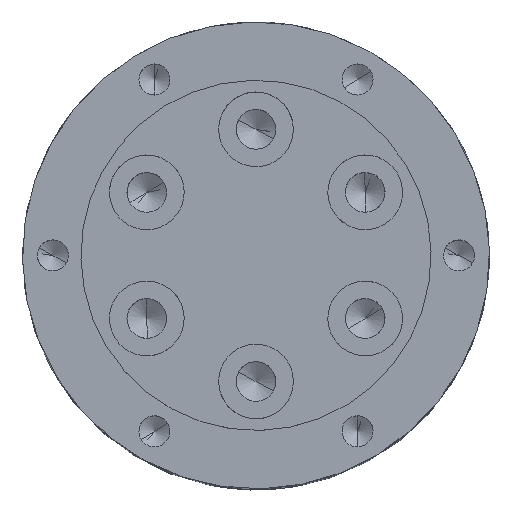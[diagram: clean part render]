
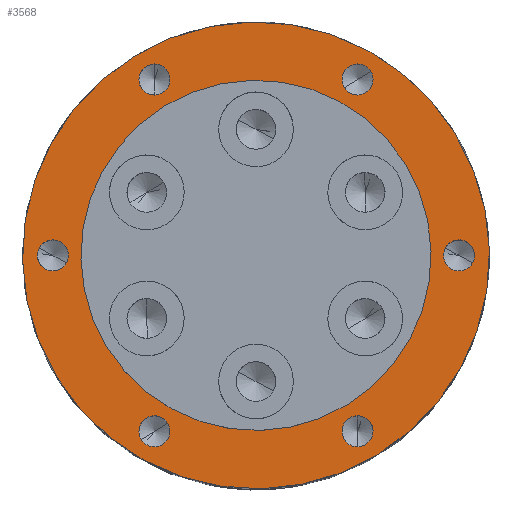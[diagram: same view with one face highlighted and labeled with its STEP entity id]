
A CAD part, top view. The second image highlights one B-rep face of the part: STEP entity #3568.
In plain terms, the highlighted planar face has unit normal (0, 0, 1).
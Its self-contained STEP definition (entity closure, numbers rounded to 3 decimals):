
#3423=AXIS2_PLACEMENT_3D('Circle Axis2P3D',#3421,#3422,$) ;
#3436=AXIS2_PLACEMENT_3D('Plane Axis2P3D',#3433,#3434,#3435) ;
#3440=AXIS2_PLACEMENT_3D('Circle Axis2P3D',#3438,#3439,$) ;
#3449=AXIS2_PLACEMENT_3D('Circle Axis2P3D',#3447,#3448,$) ;
#3462=AXIS2_PLACEMENT_3D('Circle Axis2P3D',#3460,#3461,$) ;
#3471=AXIS2_PLACEMENT_3D('Circle Axis2P3D',#3469,#3470,$) ;
#3480=AXIS2_PLACEMENT_3D('Circle Axis2P3D',#3478,#3479,$) ;
#3489=AXIS2_PLACEMENT_3D('Circle Axis2P3D',#3487,#3488,$) ;
#3498=AXIS2_PLACEMENT_3D('Circle Axis2P3D',#3496,#3497,$) ;
#3507=AXIS2_PLACEMENT_3D('Circle Axis2P3D',#3505,#3506,$) ;
#3516=AXIS2_PLACEMENT_3D('Circle Axis2P3D',#3514,#3515,$) ;
#3525=AXIS2_PLACEMENT_3D('Circle Axis2P3D',#3523,#3524,$) ;
#3534=AXIS2_PLACEMENT_3D('Circle Axis2P3D',#3532,#3533,$) ;
#3543=AXIS2_PLACEMENT_3D('Circle Axis2P3D',#3541,#3542,$) ;
#3552=AXIS2_PLACEMENT_3D('Circle Axis2P3D',#3550,#3551,$) ;
#3561=AXIS2_PLACEMENT_3D('Circle Axis2P3D',#3559,#3560,$) ;
#3379=CARTESIAN_POINT('Control Point',(-40.583,-1.593,121.)) ;
#3380=CARTESIAN_POINT('Control Point',(-40.834,-2.052,121.)) ;
#3381=CARTESIAN_POINT('Control Point',(-41.174,-2.461,121.)) ;
#3382=CARTESIAN_POINT('Control Point',(-41.591,-2.797,121.)) ;
#3383=CARTESIAN_POINT('Control Point',(-42.535,-3.287,121.)) ;
#3384=CARTESIAN_POINT('Control Point',(-43.595,-3.385,121.)) ;
#3385=CARTESIAN_POINT('Control Point',(-44.128,-3.327,121.)) ;
#3386=CARTESIAN_POINT('Control Point',(-45.143,-3.007,121.)) ;
#3387=CARTESIAN_POINT('Control Point',(-45.961,-2.326,121.)) ;
#3388=CARTESIAN_POINT('Control Point',(-46.297,-1.909,121.)) ;
#3389=CARTESIAN_POINT('Control Point',(-46.787,-0.965,121.)) ;
#3390=CARTESIAN_POINT('Control Point',(-46.885,0.095,121.)) ;
#3391=CARTESIAN_POINT('Control Point',(-46.827,0.628,121.)) ;
#3392=CARTESIAN_POINT('Control Point',(-46.667,1.135,121.)) ;
#3393=CARTESIAN_POINT('Control Point',(-46.417,1.593,121.)) ;
#3394=CARTESIAN_POINT('Vertex',(-40.583,-1.593,121.)) ;
#3396=CARTESIAN_POINT('Vertex',(-46.417,1.593,121.)) ;
#3421=CARTESIAN_POINT('Axis2P3D Location',(-43.5,0.,121.)) ;
#3433=CARTESIAN_POINT('Axis2P3D Location',(0.,37.5,121.)) ;
#3438=CARTESIAN_POINT('Axis2P3D Location',(0.,0.,121.)) ;
#3442=CARTESIAN_POINT('Vertex',(23.971,43.879,121.)) ;
#3444=CARTESIAN_POINT('Vertex',(-23.971,-43.879,121.)) ;
#3447=CARTESIAN_POINT('Axis2P3D Location',(0.,0.,121.)) ;
#3460=CARTESIAN_POINT('Axis2P3D Location',(0.,0.,121.)) ;
#3464=CARTESIAN_POINT('Vertex',(-17.978,-32.909,121.)) ;
#3466=CARTESIAN_POINT('Vertex',(17.978,32.909,121.)) ;
#3469=CARTESIAN_POINT('Axis2P3D Location',(0.,0.,121.)) ;
#3478=CARTESIAN_POINT('Axis2P3D Location',(-21.75,37.672,121.)) ;
#3482=CARTESIAN_POINT('Vertex',(-21.672,34.35,121.)) ;
#3484=CARTESIAN_POINT('Vertex',(-21.828,40.995,121.)) ;
#3487=CARTESIAN_POINT('Axis2P3D Location',(-21.75,37.672,121.)) ;
#3496=CARTESIAN_POINT('Axis2P3D Location',(21.75,37.672,121.)) ;
#3500=CARTESIAN_POINT('Vertex',(18.912,35.943,121.)) ;
#3502=CARTESIAN_POINT('Vertex',(24.588,39.401,121.)) ;
#3505=CARTESIAN_POINT('Axis2P3D Location',(21.75,37.672,121.)) ;
#3514=CARTESIAN_POINT('Axis2P3D Location',(43.5,0.,121.)) ;
#3518=CARTESIAN_POINT('Vertex',(40.583,1.593,121.)) ;
#3520=CARTESIAN_POINT('Vertex',(46.417,-1.593,121.)) ;
#3523=CARTESIAN_POINT('Axis2P3D Location',(43.5,0.,121.)) ;
#3532=CARTESIAN_POINT('Axis2P3D Location',(21.75,-37.672,121.)) ;
#3536=CARTESIAN_POINT('Vertex',(21.672,-34.35,121.)) ;
#3538=CARTESIAN_POINT('Vertex',(21.828,-40.995,121.)) ;
#3541=CARTESIAN_POINT('Axis2P3D Location',(21.75,-37.672,121.)) ;
#3550=CARTESIAN_POINT('Axis2P3D Location',(-21.75,-37.672,121.)) ;
#3554=CARTESIAN_POINT('Vertex',(-18.912,-35.943,121.)) ;
#3556=CARTESIAN_POINT('Vertex',(-24.588,-39.401,121.)) ;
#3559=CARTESIAN_POINT('Axis2P3D Location',(-21.75,-37.672,121.)) ;
#3422=DIRECTION('Axis2P3D Direction',(0.,0.,-1.)) ;
#3434=DIRECTION('Axis2P3D Direction',(0.,0.,-1.)) ;
#3435=DIRECTION('Axis2P3D XDirection',(1.,0.,0.)) ;
#3439=DIRECTION('Axis2P3D Direction',(0.,0.,-1.)) ;
#3448=DIRECTION('Axis2P3D Direction',(0.,0.,-1.)) ;
#3461=DIRECTION('Axis2P3D Direction',(0.,0.,-1.)) ;
#3470=DIRECTION('Axis2P3D Direction',(0.,0.,-1.)) ;
#3479=DIRECTION('Axis2P3D Direction',(0.,0.,-1.)) ;
#3488=DIRECTION('Axis2P3D Direction',(0.,0.,-1.)) ;
#3497=DIRECTION('Axis2P3D Direction',(0.,0.,-1.)) ;
#3506=DIRECTION('Axis2P3D Direction',(0.,0.,-1.)) ;
#3515=DIRECTION('Axis2P3D Direction',(0.,0.,-1.)) ;
#3524=DIRECTION('Axis2P3D Direction',(0.,0.,-1.)) ;
#3533=DIRECTION('Axis2P3D Direction',(0.,0.,-1.)) ;
#3542=DIRECTION('Axis2P3D Direction',(0.,0.,-1.)) ;
#3551=DIRECTION('Axis2P3D Direction',(0.,0.,-1.)) ;
#3560=DIRECTION('Axis2P3D Direction',(0.,0.,-1.)) ;
#3453=ORIENTED_EDGE('',*,*,#3446,.F.) ;
#3454=ORIENTED_EDGE('',*,*,#3451,.F.) ;
#3457=ORIENTED_EDGE('',*,*,#3425,.T.) ;
#3458=ORIENTED_EDGE('',*,*,#3398,.T.) ;
#3475=ORIENTED_EDGE('',*,*,#3468,.T.) ;
#3476=ORIENTED_EDGE('',*,*,#3473,.T.) ;
#3493=ORIENTED_EDGE('',*,*,#3486,.T.) ;
#3494=ORIENTED_EDGE('',*,*,#3491,.T.) ;
#3511=ORIENTED_EDGE('',*,*,#3504,.T.) ;
#3512=ORIENTED_EDGE('',*,*,#3509,.T.) ;
#3529=ORIENTED_EDGE('',*,*,#3522,.T.) ;
#3530=ORIENTED_EDGE('',*,*,#3527,.T.) ;
#3547=ORIENTED_EDGE('',*,*,#3540,.T.) ;
#3548=ORIENTED_EDGE('',*,*,#3545,.T.) ;
#3565=ORIENTED_EDGE('',*,*,#3558,.T.) ;
#3566=ORIENTED_EDGE('',*,*,#3563,.T.) ;
#3459=FACE_BOUND('',#3456,.T.) ;
#3477=FACE_BOUND('',#3474,.T.) ;
#3495=FACE_BOUND('',#3492,.T.) ;
#3513=FACE_BOUND('',#3510,.T.) ;
#3531=FACE_BOUND('',#3528,.T.) ;
#3549=FACE_BOUND('',#3546,.T.) ;
#3567=FACE_BOUND('',#3564,.T.) ;
#3568=ADVANCED_FACE('PartBody',(#3455,#3459,#3477,#3495,#3513,#3531,#3549,#3567),#3437,.F.) ;
#3378=B_SPLINE_CURVE_WITH_KNOTS('',5,(#3379,#3380,#3381,#3382,#3383,#3384,#3385,#3386,#3387,#3388,#3389,#3390,#3391,#3392,#3393),.UNSPECIFIED.,.F.,.U.,(6,3,3,3,6),(-5.221,-2.61,0.,2.61,5.221),.UNSPECIFIED.) ;
#3424=CIRCLE('generated circle',#3423,3.324) ;
#3441=CIRCLE('generated circle',#3440,50.) ;
#3450=CIRCLE('generated circle',#3449,50.) ;
#3463=CIRCLE('generated circle',#3462,37.5) ;
#3472=CIRCLE('generated circle',#3471,37.5) ;
#3481=CIRCLE('generated circle',#3480,3.323) ;
#3490=CIRCLE('generated circle',#3489,3.323) ;
#3499=CIRCLE('generated circle',#3498,3.324) ;
#3508=CIRCLE('generated circle',#3507,3.324) ;
#3517=CIRCLE('generated circle',#3516,3.324) ;
#3526=CIRCLE('generated circle',#3525,3.324) ;
#3535=CIRCLE('generated circle',#3534,3.323) ;
#3544=CIRCLE('generated circle',#3543,3.323) ;
#3553=CIRCLE('generated circle',#3552,3.324) ;
#3562=CIRCLE('generated circle',#3561,3.324) ;
#3398=EDGE_CURVE('',#3395,#3397,#3378,.T.) ;
#3425=EDGE_CURVE('',#3397,#3395,#3424,.T.) ;
#3446=EDGE_CURVE('',#3443,#3445,#3441,.T.) ;
#3451=EDGE_CURVE('',#3445,#3443,#3450,.T.) ;
#3468=EDGE_CURVE('',#3465,#3467,#3463,.T.) ;
#3473=EDGE_CURVE('',#3467,#3465,#3472,.T.) ;
#3486=EDGE_CURVE('',#3483,#3485,#3481,.T.) ;
#3491=EDGE_CURVE('',#3485,#3483,#3490,.T.) ;
#3504=EDGE_CURVE('',#3501,#3503,#3499,.T.) ;
#3509=EDGE_CURVE('',#3503,#3501,#3508,.T.) ;
#3522=EDGE_CURVE('',#3519,#3521,#3517,.T.) ;
#3527=EDGE_CURVE('',#3521,#3519,#3526,.T.) ;
#3540=EDGE_CURVE('',#3537,#3539,#3535,.T.) ;
#3545=EDGE_CURVE('',#3539,#3537,#3544,.T.) ;
#3558=EDGE_CURVE('',#3555,#3557,#3553,.T.) ;
#3563=EDGE_CURVE('',#3557,#3555,#3562,.T.) ;
#3452=EDGE_LOOP('',(#3453,#3454)) ;
#3456=EDGE_LOOP('',(#3457,#3458)) ;
#3474=EDGE_LOOP('',(#3475,#3476)) ;
#3492=EDGE_LOOP('',(#3493,#3494)) ;
#3510=EDGE_LOOP('',(#3511,#3512)) ;
#3528=EDGE_LOOP('',(#3529,#3530)) ;
#3546=EDGE_LOOP('',(#3547,#3548)) ;
#3564=EDGE_LOOP('',(#3565,#3566)) ;
#3455=FACE_OUTER_BOUND('',#3452,.T.) ;
#3437=PLANE('Plane',#3436) ;
#3395=VERTEX_POINT('',#3394) ;
#3397=VERTEX_POINT('',#3396) ;
#3443=VERTEX_POINT('',#3442) ;
#3445=VERTEX_POINT('',#3444) ;
#3465=VERTEX_POINT('',#3464) ;
#3467=VERTEX_POINT('',#3466) ;
#3483=VERTEX_POINT('',#3482) ;
#3485=VERTEX_POINT('',#3484) ;
#3501=VERTEX_POINT('',#3500) ;
#3503=VERTEX_POINT('',#3502) ;
#3519=VERTEX_POINT('',#3518) ;
#3521=VERTEX_POINT('',#3520) ;
#3537=VERTEX_POINT('',#3536) ;
#3539=VERTEX_POINT('',#3538) ;
#3555=VERTEX_POINT('',#3554) ;
#3557=VERTEX_POINT('',#3556) ;
